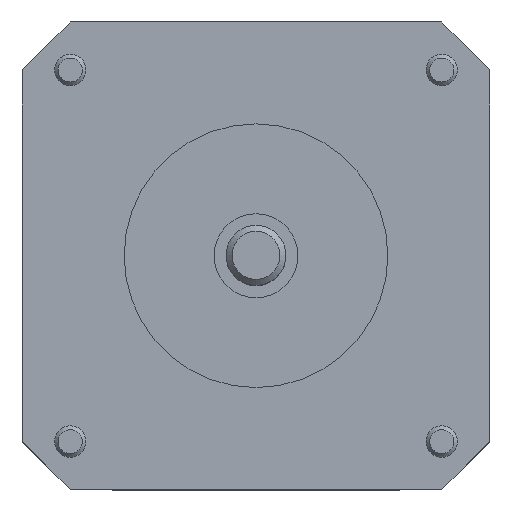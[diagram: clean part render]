
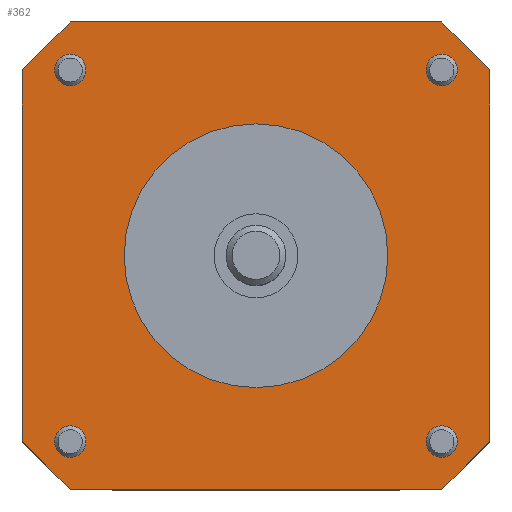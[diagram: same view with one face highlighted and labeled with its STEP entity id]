
A CAD part, top view. The second image highlights one B-rep face of the part: STEP entity #362.
In plain terms, the highlighted planar face has unit normal (0, 0, 1).
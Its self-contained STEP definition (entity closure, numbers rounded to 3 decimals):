
#362=ADVANCED_FACE('',(#1905,#1907,#1909,#1911,#1913,#1915),#1917,.T.);
#1905=FACE_BOUND('',#1906,.T.);
#1906=EDGE_LOOP('',(#3309,#3310,#3311,#3312,#3313,#3314,#3315,#3316));
#1907=FACE_BOUND('',#1908,.T.);
#1908=EDGE_LOOP('',(#3317));
#1909=FACE_BOUND('',#1910,.T.);
#1910=EDGE_LOOP('',(#3318));
#1911=FACE_BOUND('',#1912,.T.);
#1912=EDGE_LOOP('',(#3319));
#1913=FACE_BOUND('',#1914,.T.);
#1914=EDGE_LOOP('',(#3320));
#1915=FACE_BOUND('',#1916,.T.);
#1916=EDGE_LOOP('',(#3321));
#1917=PLANE('',#1918);
#1918=AXIS2_PLACEMENT_3D('',#1919,#1920,#1921);
#1919=CARTESIAN_POINT('',(0.,0.,25.));
#1920=DIRECTION('',(0.,0.,1.));
#1921=DIRECTION('',(1.,0.,0.));
#3309=ORIENTED_EDGE('',*,*,#4169,.F.);
#3310=ORIENTED_EDGE('',*,*,#4170,.T.);
#3311=ORIENTED_EDGE('',*,*,#4171,.F.);
#3312=ORIENTED_EDGE('',*,*,#4172,.T.);
#3313=ORIENTED_EDGE('',*,*,#4173,.F.);
#3314=ORIENTED_EDGE('',*,*,#4174,.T.);
#3315=ORIENTED_EDGE('',*,*,#4175,.F.);
#3316=ORIENTED_EDGE('',*,*,#4176,.T.);
#3317=ORIENTED_EDGE('',*,*,#4177,.T.);
#3318=ORIENTED_EDGE('',*,*,#4178,.T.);
#3319=ORIENTED_EDGE('',*,*,#4179,.F.);
#3320=ORIENTED_EDGE('',*,*,#4180,.T.);
#3321=ORIENTED_EDGE('',*,*,#4181,.T.);
#4169=EDGE_CURVE('',#4620,#4621,#4622,.F.);
#4170=EDGE_CURVE('',#4620,#4623,#4624,.T.);
#4171=EDGE_CURVE('',#4625,#4623,#4626,.F.);
#4172=EDGE_CURVE('',#4625,#4627,#4628,.T.);
#4173=EDGE_CURVE('',#4629,#4627,#4630,.F.);
#4174=EDGE_CURVE('',#4629,#4631,#4632,.T.);
#4175=EDGE_CURVE('',#4633,#4631,#4634,.F.);
#4176=EDGE_CURVE('',#4633,#4621,#4635,.T.);
#4177=EDGE_CURVE('',#4636,#4636,#4637,.F.);
#4178=EDGE_CURVE('',#4638,#4638,#4639,.F.);
#4179=EDGE_CURVE('',#4640,#4640,#4641,.T.);
#4180=EDGE_CURVE('',#4642,#4642,#4643,.F.);
#4181=EDGE_CURVE('',#4644,#4644,#4645,.F.);
#4620=VERTEX_POINT('',#5410);
#4621=VERTEX_POINT('',#5411);
#4622=LINE('',#5412,#5413);
#4623=VERTEX_POINT('',#5415);
#4624=LINE('',#5416,#5417);
#4625=VERTEX_POINT('',#5419);
#4626=LINE('',#5420,#5421);
#4627=VERTEX_POINT('',#5423);
#4628=LINE('',#5424,#5425);
#4629=VERTEX_POINT('',#5427);
#4630=LINE('',#5428,#5429);
#4631=VERTEX_POINT('',#5431);
#4632=LINE('',#5432,#5433);
#4633=VERTEX_POINT('',#5435);
#4634=LINE('',#5436,#5437);
#4635=LINE('',#5439,#5440);
#4636=VERTEX_POINT('',#5442);
#4637=CIRCLE('',#5443,1.311);
#4638=VERTEX_POINT('',#5447);
#4639=CIRCLE('',#5448,1.311);
#4640=VERTEX_POINT('',#5452);
#4641=CIRCLE('',#5453,11.);
#4642=VERTEX_POINT('',#5457);
#4643=CIRCLE('',#5458,1.311);
#4644=VERTEX_POINT('',#5462);
#4645=CIRCLE('',#5463,1.311);
#5410=CARTESIAN_POINT('',(15.5,19.5,25.));
#5411=CARTESIAN_POINT('',(19.5,15.5,25.));
#5412=CARTESIAN_POINT('',(19.5,15.5,25.));
#5413=VECTOR('',#5414,1.);
#5414=DIRECTION('',(-0.707,0.707,0.));
#5415=CARTESIAN_POINT('',(-15.5,19.5,25.));
#5416=CARTESIAN_POINT('',(15.5,19.5,25.));
#5417=VECTOR('',#5418,1.);
#5418=DIRECTION('',(-1.,0.,0.));
#5419=CARTESIAN_POINT('',(-19.5,15.5,25.));
#5420=CARTESIAN_POINT('',(-15.5,19.5,25.));
#5421=VECTOR('',#5422,1.);
#5422=DIRECTION('',(-0.707,-0.707,0.));
#5423=CARTESIAN_POINT('',(-19.5,-15.5,25.));
#5424=CARTESIAN_POINT('',(-19.5,15.5,25.));
#5425=VECTOR('',#5426,1.);
#5426=DIRECTION('',(0.,-1.,0.));
#5427=CARTESIAN_POINT('',(-15.5,-19.5,25.));
#5428=CARTESIAN_POINT('',(-19.5,-15.5,25.));
#5429=VECTOR('',#5430,1.);
#5430=DIRECTION('',(0.707,-0.707,0.));
#5431=CARTESIAN_POINT('',(15.5,-19.5,25.));
#5432=CARTESIAN_POINT('',(-15.5,-19.5,25.));
#5433=VECTOR('',#5434,1.);
#5434=DIRECTION('',(1.,0.,0.));
#5435=CARTESIAN_POINT('',(19.5,-15.5,25.));
#5436=CARTESIAN_POINT('',(15.5,-19.5,25.));
#5437=VECTOR('',#5438,1.);
#5438=DIRECTION('',(0.707,0.707,0.));
#5439=CARTESIAN_POINT('',(19.5,-15.5,25.));
#5440=VECTOR('',#5441,1.);
#5441=DIRECTION('',(0.,1.,0.));
#5442=CARTESIAN_POINT('',(15.5,-14.189,25.));
#5443=AXIS2_PLACEMENT_3D('',#5444,#5445,#5446);
#5444=CARTESIAN_POINT('',(15.5,-15.5,25.));
#5445=DIRECTION('',(0.,0.,1.));
#5446=DIRECTION('',(0.,1.,0.));
#5447=CARTESIAN_POINT('',(-15.5,16.811,25.));
#5448=AXIS2_PLACEMENT_3D('',#5449,#5450,#5451);
#5449=CARTESIAN_POINT('',(-15.5,15.5,25.));
#5450=DIRECTION('',(0.,0.,1.));
#5451=DIRECTION('',(0.,1.,0.));
#5452=CARTESIAN_POINT('',(11.,0.,25.));
#5453=AXIS2_PLACEMENT_3D('',#5454,#5455,#5456);
#5454=CARTESIAN_POINT('',(0.,0.,25.));
#5455=DIRECTION('',(0.,0.,1.));
#5456=DIRECTION('',(1.,0.,0.));
#5457=CARTESIAN_POINT('',(15.5,16.811,25.));
#5458=AXIS2_PLACEMENT_3D('',#5459,#5460,#5461);
#5459=CARTESIAN_POINT('',(15.5,15.5,25.));
#5460=DIRECTION('',(0.,0.,1.));
#5461=DIRECTION('',(0.,1.,0.));
#5462=CARTESIAN_POINT('',(-15.5,-14.189,25.));
#5463=AXIS2_PLACEMENT_3D('',#5464,#5465,#5466);
#5464=CARTESIAN_POINT('',(-15.5,-15.5,25.));
#5465=DIRECTION('',(0.,0.,1.));
#5466=DIRECTION('',(0.,1.,0.));
